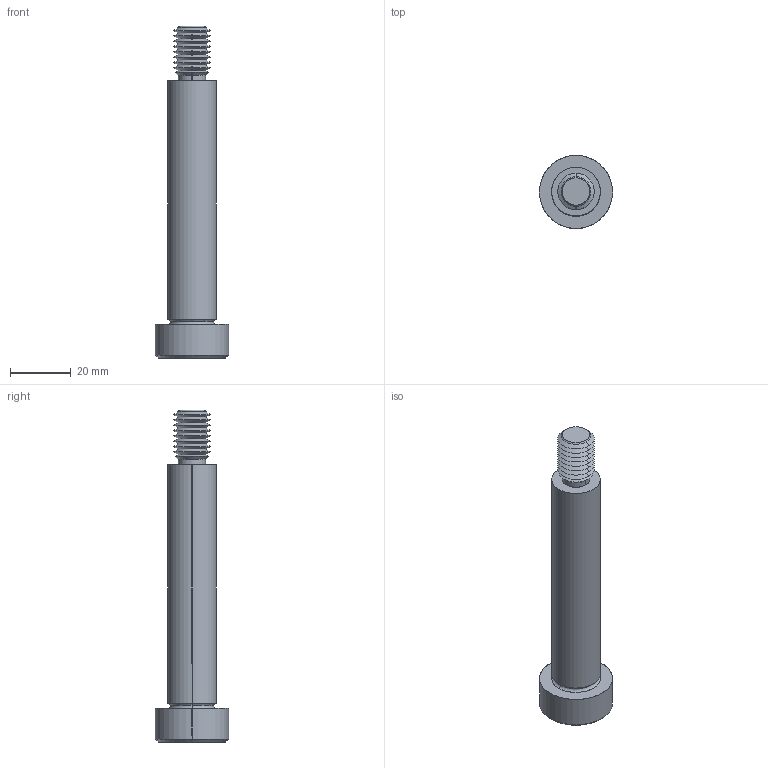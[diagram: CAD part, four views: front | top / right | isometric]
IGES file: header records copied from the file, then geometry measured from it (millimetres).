
Start section: SolidWorks IGES file using analytic representation for surfaces
Global section: file name: C:\Users\IanO\Documents\Temp Folder\GENERAL\SCREW REVISION\P0130_v2\P0130.T5_v2_20220106_IGES\P0130.160-080-T5.igs; native system: SolidWorks 2019; preprocessor: SolidWorks 2019; author: IanO; date: 220106.225731; units: millimetre
Bounding box: 24 x 24 x 109 mm (x, y, z)
Surface area: 7067.8 mm2 (no closed solid volume)
Topology: 0 solids, 0 shells, 76 faces, 588 edges, 586 vertices
Faces by surface type: revolution 56, bspline 20
